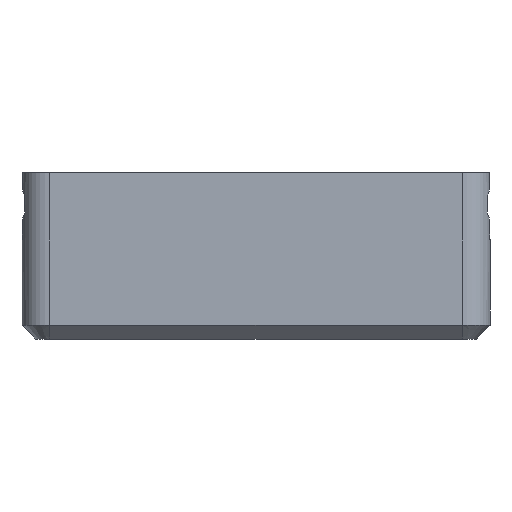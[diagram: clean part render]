
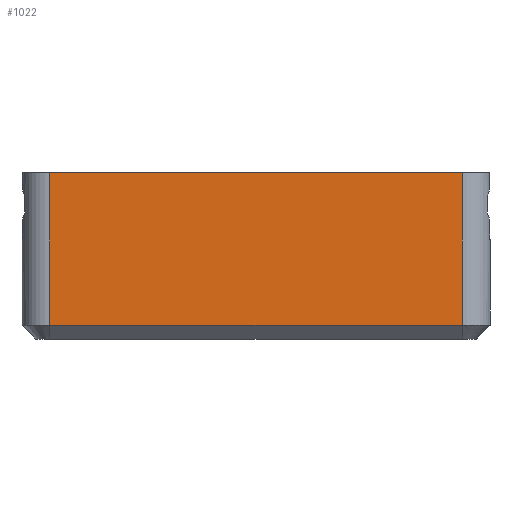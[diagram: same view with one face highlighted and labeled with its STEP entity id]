
A CAD part, left-side view. The second image highlights one B-rep face of the part: STEP entity #1022.
In plain terms, the highlighted planar face has unit normal (-1, 0, 0).
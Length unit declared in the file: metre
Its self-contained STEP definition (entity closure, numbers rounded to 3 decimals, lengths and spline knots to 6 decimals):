
#170=ORIENTED_EDGE('',*,*,#456,.T.);
#171=ORIENTED_EDGE('',*,*,#457,.T.);
#172=ORIENTED_EDGE('',*,*,#458,.T.);
#173=ORIENTED_EDGE('',*,*,#459,.F.);
#456=EDGE_CURVE('',#597,#598,#684,.F.);
#457=EDGE_CURVE('',#598,#599,#685,.T.);
#458=EDGE_CURVE('',#599,#600,#686,.F.);
#459=EDGE_CURVE('',#597,#600,#687,.T.);
#597=VERTEX_POINT('',#1655);
#598=VERTEX_POINT('',#1656);
#599=VERTEX_POINT('',#1658);
#600=VERTEX_POINT('',#1660);
#684=LINE('',#1654,#791);
#685=LINE('',#1657,#792);
#686=LINE('',#1659,#793);
#687=LINE('',#1661,#794);
#791=VECTOR('',#1297,1.);
#792=VECTOR('',#1298,1.);
#793=VECTOR('',#1299,1.);
#794=VECTOR('',#1300,1.);
#866=EDGE_LOOP('',(#170,#171,#172,#173));
#925=FACE_BOUND('',#866,.T.);
#980=PLANE('',#1112);
#1022=ADVANCED_FACE('',(#925),#980,.F.);
#1112=AXIS2_PLACEMENT_3D('',#1653,#1295,#1296);
#1295=DIRECTION('',(1.,0.,0.));
#1296=DIRECTION('',(0.,1.,0.));
#1297=DIRECTION('',(0.,0.,1.));
#1298=DIRECTION('',(0.,-1.,0.));
#1299=DIRECTION('',(0.,0.,-1.));
#1300=DIRECTION('',(0.,-1.,0.));
#1653=CARTESIAN_POINT('',(-0.201937,0.04465,0.001875));
#1654=CARTESIAN_POINT('',(-0.201937,0.04665,-0.00775));
#1655=CARTESIAN_POINT('',(-0.201937,0.04665,0.00415));
#1656=CARTESIAN_POINT('',(-0.201937,0.04665,-0.00675));
#1657=CARTESIAN_POINT('',(-0.201937,0.04465,-0.00675));
#1658=CARTESIAN_POINT('',(-0.201937,0.01715,-0.00675));
#1659=CARTESIAN_POINT('',(-0.201937,0.01715,0.001875));
#1660=CARTESIAN_POINT('',(-0.201937,0.01715,0.00415));
#1661=CARTESIAN_POINT('',(-0.201937,0.048652,0.00415));
